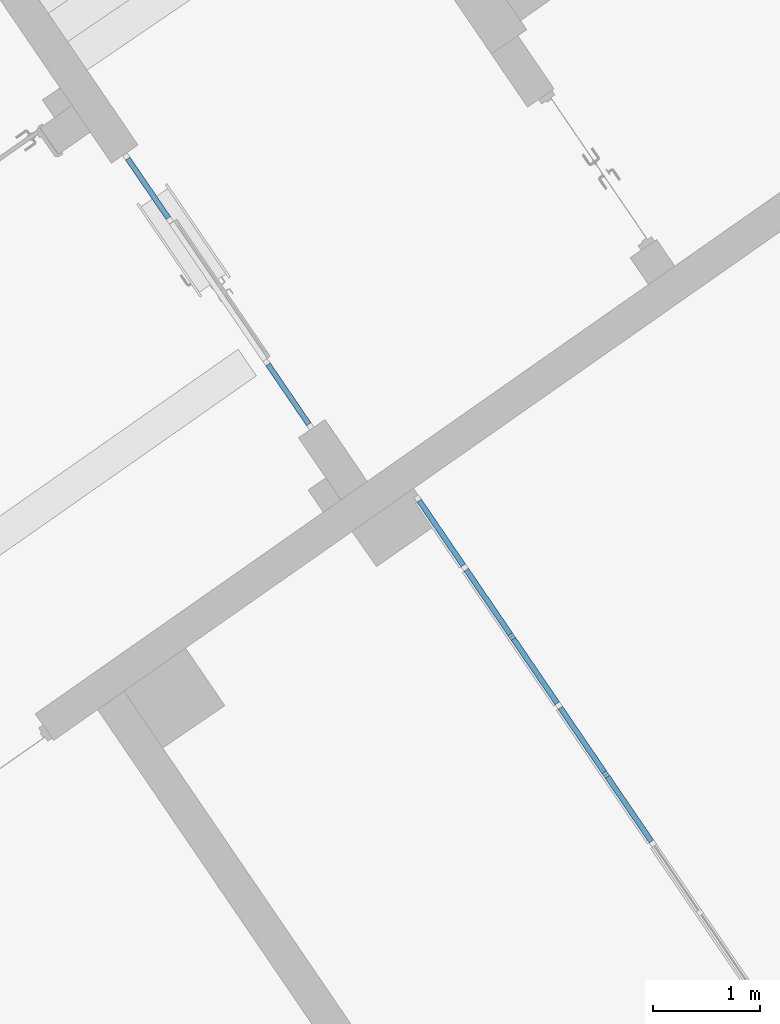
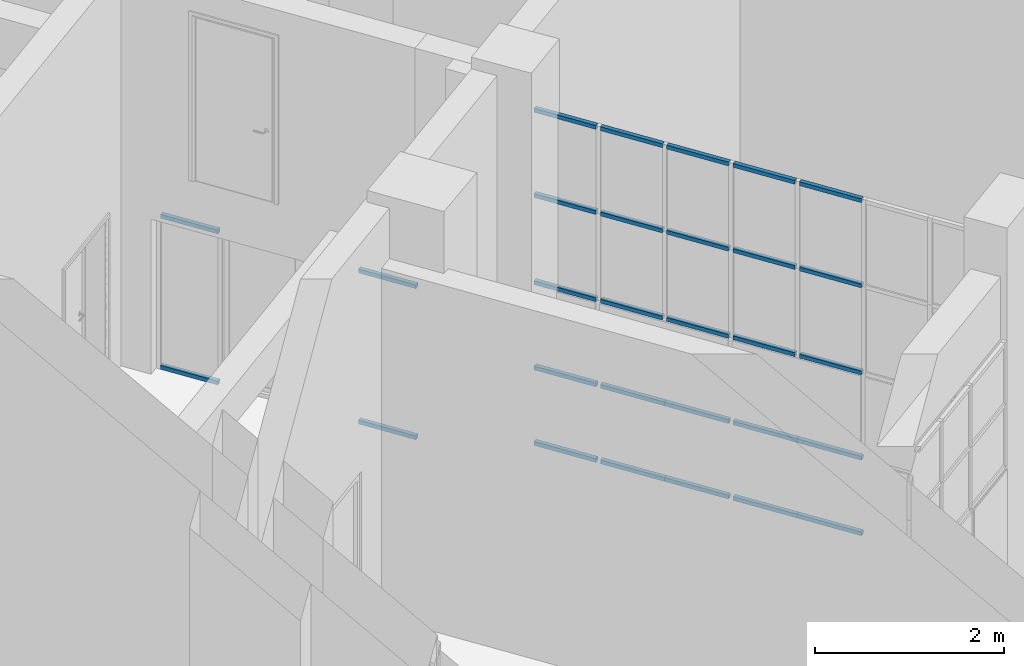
# One storey, part 41 of 157: 29 members, 2 elements without a shape of their own.
"""IFC2X3 building model written with IfcOpenShell, lengths in millimetres."""

from ifc_helpers import new_model, entity, si_unit, converted_unit, derived_unit, direction, frame, origin, origin_2d_with_axis, place, context, subcontext, project, spatial, rectangle, extrude, source, transform, mapped, material, type_object, type_shapes, element, aggregate, save


model = new_model("IFC2X3")

# Units and contexts
model_context = context("Model", 3, precision=0.01, world=origin(), true_north=direction((6.123031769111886e-17, 1.0)))
body_context = subcontext(model_context, "Body", "Model", "MODEL_VIEW")
ifc_project = project(units=[si_unit("LENGTHUNIT", "METRE", prefix="MILLI"), si_unit("AREAUNIT", "SQUARE_METRE"), si_unit("VOLUMEUNIT", "CUBIC_METRE"), converted_unit("PLANEANGLEUNIT", "DEGREE", entity("IfcRatioMeasure", 0.017453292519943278), si_unit("PLANEANGLEUNIT", "RADIAN"), dimensions=[0, 0, 0, 0, 0, 0, 0]), si_unit("MASSUNIT", "GRAM", prefix="KILO"), derived_unit("MASSDENSITYUNIT", [(si_unit("MASSUNIT", "GRAM", prefix="KILO"), 1), (si_unit("LENGTHUNIT", "METRE"), -3)]), derived_unit("MOMENTOFINERTIAUNIT", [(si_unit("LENGTHUNIT", "METRE"), 4)]), si_unit("TIMEUNIT", "SECOND"), si_unit("FREQUENCYUNIT", "HERTZ"), si_unit("THERMODYNAMICTEMPERATUREUNIT", "DEGREE_CELSIUS"), derived_unit("THERMALTRANSMITTANCEUNIT", [(si_unit("MASSUNIT", "GRAM", prefix="KILO"), 1), (si_unit("THERMODYNAMICTEMPERATUREUNIT", "KELVIN"), -1), (si_unit("TIMEUNIT", "SECOND"), -3)]), derived_unit("THERMALCONDUCTANCEUNIT", [(si_unit("MASSUNIT", "GRAM", prefix="KILO"), 1), (si_unit("LENGTHUNIT", "METRE"), 1), (si_unit("THERMODYNAMICTEMPERATUREUNIT", "KELVIN"), -1), (si_unit("TIMEUNIT", "SECOND"), -3)]), derived_unit("VOLUMETRICFLOWRATEUNIT", [(si_unit("LENGTHUNIT", "METRE"), 3), (si_unit("TIMEUNIT", "SECOND"), -1)]), derived_unit("MASSFLOWRATEUNIT", [(si_unit("MASSUNIT", "GRAM", prefix="KILO"), 1), (si_unit("TIMEUNIT", "SECOND"), -1)]), derived_unit("ROTATIONALFREQUENCYUNIT", [(si_unit("TIMEUNIT", "SECOND"), -1)]), si_unit("ELECTRICCURRENTUNIT", "AMPERE"), si_unit("ELECTRICVOLTAGEUNIT", "VOLT"), si_unit("POWERUNIT", "WATT"), converted_unit("FORCEUNIT", "KIP", entity("IfcRatioMeasure", 2.088543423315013e-05), si_unit("FORCEUNIT", "NEWTON"), dimensions=[1, 1, -2, 0, 0, 0, 0]), si_unit("ILLUMINANCEUNIT", "LUX"), si_unit("LUMINOUSFLUXUNIT", "LUMEN"), si_unit("LUMINOUSINTENSITYUNIT", "CANDELA"), derived_unit("USERDEFINED", [(si_unit("MASSUNIT", "GRAM", prefix="KILO"), -1), (si_unit("LENGTHUNIT", "METRE"), -2), (si_unit("TIMEUNIT", "SECOND"), 3), (si_unit("LUMINOUSFLUXUNIT", "LUMEN"), 1)]), derived_unit("USERDEFINED", [(si_unit("MASSUNIT", "GRAM", prefix="KILO"), 1), (si_unit("LENGTHUNIT", "METRE"), 3), (si_unit("TIMEUNIT", "SECOND"), -3), (si_unit("ELECTRICCURRENTUNIT", "AMPERE"), -2)]), derived_unit("USERDEFINED", [(si_unit("LENGTHUNIT", "METRE"), 2), (si_unit("TIMEUNIT", "SECOND"), -2)]), derived_unit("SOUNDPOWERUNIT", [(si_unit("MASSUNIT", "GRAM", prefix="KILO"), 1), (si_unit("LENGTHUNIT", "METRE"), 2), (si_unit("TIMEUNIT", "SECOND"), -3)]), derived_unit("SOUNDPRESSUREUNIT", [(si_unit("MASSUNIT", "GRAM", prefix="KILO"), 1), (si_unit("LENGTHUNIT", "METRE"), -1), (si_unit("TIMEUNIT", "SECOND"), -2)]), derived_unit("LINEARVELOCITYUNIT", [(si_unit("LENGTHUNIT", "METRE"), 1), (si_unit("TIMEUNIT", "SECOND"), -1)]), si_unit("PRESSUREUNIT", "PASCAL"), derived_unit("USERDEFINED", [(si_unit("LENGTHUNIT", "METRE"), -2), (si_unit("MASSUNIT", "GRAM", prefix="KILO"), 1), (si_unit("TIMEUNIT", "SECOND"), -2)]), derived_unit("LINEARFORCEUNIT", [(si_unit("MASSUNIT", "GRAM", prefix="KILO"), 1), (si_unit("LENGTHUNIT", "METRE"), 1), (si_unit("TIMEUNIT", "SECOND"), -2), (si_unit("LENGTHUNIT", "METRE"), -1)]), derived_unit("PLANARFORCEUNIT", [(si_unit("MASSUNIT", "GRAM", prefix="KILO"), 1), (si_unit("LENGTHUNIT", "METRE"), 1), (si_unit("TIMEUNIT", "SECOND"), -2), (si_unit("LENGTHUNIT", "METRE"), -2)]), derived_unit("SPECIFICHEATCAPACITYUNIT", [(si_unit("LENGTHUNIT", "METRE"), 2), (si_unit("TIMEUNIT", "SECOND"), -2), (si_unit("THERMODYNAMICTEMPERATUREUNIT", "KELVIN"), -1)]), derived_unit("VAPORPERMEABILITYUNIT", [(si_unit("TIMEUNIT", "SECOND"), 1), (si_unit("LENGTHUNIT", "METRE"), -1)]), derived_unit("DYNAMICVISCOSITYUNIT", [(si_unit("MASSUNIT", "GRAM", prefix="KILO"), 1), (si_unit("LENGTHUNIT", "METRE"), -1), (si_unit("TIMEUNIT", "SECOND"), -1)]), derived_unit("THERMALEXPANSIONCOEFFICIENTUNIT", [(si_unit("THERMODYNAMICTEMPERATUREUNIT", "KELVIN"), -1)])], contexts=[model_context])

# Site, building, storey
site_placement = place(None, frame((0.0, 0.0, 0.0), z_axis=(0.0, 0.0, 1.0), x_axis=(0.8191520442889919, 0.5735764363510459, 0.0)))
site = spatial("IfcSite", under=ifc_project, at=site_placement, Name="Default", CompositionType="ELEMENT")
building_placement = place(site_placement, origin())
building = spatial("IfcBuilding", under=site, at=building_placement, CompositionType="ELEMENT")
storey_placement = place(building_placement, origin())
storey = spatial("IfcBuildingStorey", under=building, at=storey_placement, Name="1.EG +0.00", CompositionType="ELEMENT", Elevation=-4.331468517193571e-12)

# Curtain wall, members
curtain_wall_type_1 = type_object("IfcCurtainWallType", Name="Curtain Wall:Curtain_Wall_CJC_Int5", PredefinedType="NOTDEFINED")
curtain_wall_1_placement = place(storey_placement, origin())
curtain_wall_1 = element("IfcCurtainWall", 1, at=curtain_wall_1_placement, inside=storey, type_object=curtain_wall_type_1, Name="Curtain Wall:Curtain_Wall_CJC_Int5", ObjectType="Curtain Wall:Curtain_Wall_CJC_Int5")
ifc_material = material(Name="Aluminium")
member_type_1 = type_object("IfcMemberType", Name="Rectangular Mullion:5x5", PredefinedType="MULLION", material=ifc_material)
shared_shape_1 = source(origin(), body_context, "Body", "SweptSolid", [
    extrude(rectangle(XDim=50.0, YDim=50.0, at=origin_2d_with_axis()), frame((-25.0, 0.0, -728.6339668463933), z_axis=(0.0, 0.0, 1.0), x_axis=(0.0, -1.0, 0.0)), (0.0, 0.0, 1.0), 728.6339668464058),
])
type_shapes(member_type_1, [shared_shape_1])
member_1_placement = place(curtain_wall_1_placement, frame((-209886.78590141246, 163696.36289373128, 4350.0), z_axis=(0.012616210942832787, 0.9999204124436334, 0.0), x_axis=(0.0, 0.0, 1.0)))
member_1 = element("IfcMember", 2, at=member_1_placement, type_object=member_type_1, material=ifc_material, Name="Rectangular Mullion:5x5", ObjectType="Rectangular Mullion:5x5", context=body_context, shape_type="MappedRepresentation", body=[
    mapped(shared_shape_1, transform((0.0, 0.0, 0.0), scale=1.0)),
])
member_2_placement = place(curtain_wall_1_placement, frame((-209926.0795428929, 160582.07490555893, 4350.0), z_axis=(0.012616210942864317, 0.999920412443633, 0.0), x_axis=(0.0, 0.0, 1.0)))
member_2 = element("IfcMember", 3, at=member_2_placement, type_object=member_type_1, material=ifc_material, Name="Rectangular Mullion:5x5", ObjectType="Rectangular Mullion:5x5", context=body_context, shape_type="MappedRepresentation", body=[
    mapped(shared_shape_1, transform((0.0, 0.0, 0.0), scale=1.0)),
])
member_3_placement = place(curtain_wall_1_placement, frame((-209916.25613252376, 161360.64690252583, 4350.0), z_axis=(0.012616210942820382, 0.9999204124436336, 0.0), x_axis=(0.0, 0.0, 1.0)))
member_3 = element("IfcMember", 4, at=member_3_placement, type_object=member_type_1, material=ifc_material, Name="Rectangular Mullion:5x5", ObjectType="Rectangular Mullion:5x5", context=body_context, shape_type="MappedRepresentation", body=[
    mapped(shared_shape_1, transform((0.0, 0.0, 0.0), scale=1.0)),
])
member_4_placement = place(curtain_wall_1_placement, frame((-209906.43272215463, 162139.21889949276, 4350.0), z_axis=(0.012616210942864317, 0.999920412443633, 0.0), x_axis=(0.0, 0.0, 1.0)))
member_4 = element("IfcMember", 5, at=member_4_placement, type_object=member_type_1, material=ifc_material, Name="Rectangular Mullion:5x5", ObjectType="Rectangular Mullion:5x5", context=body_context, shape_type="MappedRepresentation", body=[
    mapped(shared_shape_1, transform((0.0, 0.0, 0.0), scale=1.0)),
])
member_5_placement = place(curtain_wall_1_placement, frame((-209896.60931178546, 162917.79089645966, 4350.0), z_axis=(0.012616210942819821, 0.9999204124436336, 0.0), x_axis=(0.0, 0.0, 1.0)))
member_5 = element("IfcMember", 6, at=member_5_placement, type_object=member_type_1, material=ifc_material, Name="Rectangular Mullion:5x5", ObjectType="Rectangular Mullion:5x5", context=body_context, shape_type="MappedRepresentation", body=[
    mapped(shared_shape_1, transform((0.0, 0.0, 0.0), scale=1.0)),
])
member_type_2 = type_object("IfcMemberType", Name="Rectangular Mullion:5x5", PredefinedType="MULLION", material=ifc_material)
shared_shape_2 = source(origin(), body_context, "Body", "SweptSolid", [
    extrude(rectangle(XDim=50.0, YDim=50.0, at=origin_2d_with_axis()), frame((-25.0, 0.0, -753.6339668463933), z_axis=(0.0, 0.0, 1.0), x_axis=(0.0, -1.0, 0.0)), (0.0, 0.0, 1.0), 753.6339668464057),
])
type_shapes(member_type_2, [shared_shape_2])
member_6_placement = place(curtain_wall_1_placement, frame((-209935.2721427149, 159853.49892921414, 0.0), z_axis=(-0.012616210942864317, -0.999920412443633, 0.0), x_axis=(0.0, 0.0, -1.0)))
member_6 = element("IfcMember", 7, at=member_6_placement, type_object=member_type_2, material=ifc_material, Name="Rectangular Mullion:5x5", ObjectType="Rectangular Mullion:5x5", context=body_context, shape_type="MappedRepresentation", body=[
    mapped(shared_shape_2, transform((0.0, 0.0, 0.0), scale=1.0)),
])
member_7_placement = place(curtain_wall_1_placement, frame((-209915.6253219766, 161410.64292314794, 0.0), z_axis=(-0.012616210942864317, -0.999920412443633, 0.0), x_axis=(0.0, 0.0, -1.0)))
member_7 = element("IfcMember", 8, at=member_7_placement, type_object=member_type_2, material=ifc_material, Name="Rectangular Mullion:5x5", ObjectType="Rectangular Mullion:5x5", context=body_context, shape_type="MappedRepresentation", body=[
    mapped(shared_shape_2, transform((0.0, 0.0, 0.0), scale=1.0)),
])
member_type_3 = type_object("IfcMemberType", Name="Rectangular Mullion:5x5", PredefinedType="MULLION", material=ifc_material)
shared_shape_3 = source(origin(), body_context, "Body", "SweptSolid", [
    extrude(rectangle(XDim=50.0, YDim=50.0, at=origin_2d_with_axis()), frame((-25.0, 0.0, -753.6339665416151), z_axis=(0.0, 0.0, 1.0), x_axis=(0.0, -1.0, 0.0)), (0.0, 0.0, 1.0), 753.6339665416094),
])
type_shapes(member_type_3, [shared_shape_3])
member_8_placement = place(curtain_wall_1_placement, frame((-209925.76413761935, 160607.07291586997, 0.0), z_axis=(-0.012616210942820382, -0.9999204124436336, 0.0), x_axis=(0.0, 0.0, -1.0)))
member_8 = element("IfcMember", 9, at=member_8_placement, type_object=member_type_3, material=ifc_material, Name="Rectangular Mullion:5x5", ObjectType="Rectangular Mullion:5x5", context=body_context, shape_type="MappedRepresentation", body=[
    mapped(shared_shape_3, transform((0.0, 0.0, 0.0), scale=1.0)),
])
member_9_placement = place(curtain_wall_1_placement, frame((-209906.11731688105, 162164.2169098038, 0.0), z_axis=(-0.012616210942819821, -0.9999204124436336, 0.0), x_axis=(0.0, 0.0, -1.0)))
member_9 = element("IfcMember", 10, at=member_9_placement, type_object=member_type_3, material=ifc_material, Name="Rectangular Mullion:5x5", ObjectType="Rectangular Mullion:5x5", context=body_context, shape_type="MappedRepresentation", body=[
    mapped(shared_shape_3, transform((0.0, 0.0, 0.0), scale=1.0)),
])
member_type_4 = type_object("IfcMemberType", Name="Rectangular Mullion:5x5", PredefinedType="MULLION", material=ifc_material)
shared_shape_4 = source(origin(), body_context, "Body", "SweptSolid", [
    extrude(rectangle(XDim=50.0, YDim=50.0, at=origin_2d_with_axis()), frame((0.0, 0.0, -753.6339668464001), z_axis=(0.0, 0.0, 1.0), x_axis=(0.0, -1.0, 0.0)), (0.0, 0.0, 1.0), 753.6339668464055),
])
type_shapes(member_type_4, [shared_shape_4])
member_10_placement = place(curtain_wall_1_placement, frame((-209925.76413761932, 160607.07291586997, 1000.0), z_axis=(0.012616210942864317, 0.999920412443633, 0.0), x_axis=(0.0, 0.0, 1.0)))
member_10 = element("IfcMember", 11, at=member_10_placement, type_object=member_type_4, material=ifc_material, Name="Rectangular Mullion:5x5", ObjectType="Rectangular Mullion:5x5", context=body_context, shape_type="MappedRepresentation", body=[
    mapped(shared_shape_4, transform((0.0, 0.0, 0.0), scale=1.0)),
])
member_11_placement = place(curtain_wall_1_placement, frame((-209906.11731688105, 162164.2169098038, 1000.0), z_axis=(0.012616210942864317, 0.999920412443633, 0.0), x_axis=(0.0, 0.0, 1.0)))
member_11 = element("IfcMember", 12, at=member_11_placement, type_object=member_type_4, material=ifc_material, Name="Rectangular Mullion:5x5", ObjectType="Rectangular Mullion:5x5", context=body_context, shape_type="MappedRepresentation", body=[
    mapped(shared_shape_4, transform((0.0, 0.0, 0.0), scale=1.0)),
])
member_type_5 = type_object("IfcMemberType", Name="Rectangular Mullion:5x5", PredefinedType="MULLION", material=ifc_material)
shared_shape_5 = source(origin(), body_context, "Body", "SweptSolid", [
    extrude(rectangle(XDim=50.0, YDim=50.0, at=origin_2d_with_axis()), frame((0.0, 0.0, -753.6339665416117), z_axis=(0.0, 0.0, 1.0), x_axis=(0.0, -1.0, 0.0)), (0.0, 0.0, 1.0), 753.6339665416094),
])
type_shapes(member_type_5, [shared_shape_5])
member_12_placement = place(curtain_wall_1_placement, frame((-209916.25613252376, 161360.64690252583, 1000.0), z_axis=(0.012616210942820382, 0.9999204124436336, 0.0), x_axis=(0.0, 0.0, 1.0)))
member_12 = element("IfcMember", 13, at=member_12_placement, type_object=member_type_5, material=ifc_material, Name="Rectangular Mullion:5x5", ObjectType="Rectangular Mullion:5x5", context=body_context, shape_type="MappedRepresentation", body=[
    mapped(shared_shape_5, transform((0.0, 0.0, 0.0), scale=1.0)),
])
member_13_placement = place(curtain_wall_1_placement, frame((-209896.60931178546, 162917.79089645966, 1000.0), z_axis=(0.012616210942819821, 0.9999204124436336, 0.0), x_axis=(0.0, 0.0, 1.0)))
member_13 = element("IfcMember", 14, at=member_13_placement, type_object=member_type_5, material=ifc_material, Name="Rectangular Mullion:5x5", ObjectType="Rectangular Mullion:5x5", context=body_context, shape_type="MappedRepresentation", body=[
    mapped(shared_shape_5, transform((0.0, 0.0, 0.0), scale=1.0)),
])
member_type_6 = type_object("IfcMemberType", Name="Rectangular Mullion:5x5", PredefinedType="MULLION", material=ifc_material)
shared_shape_6 = source(origin(), body_context, "Body", "SweptSolid", [
    extrude(rectangle(XDim=50.0, YDim=50.0, at=origin_2d_with_axis()), frame((0.0, 0.0, -728.6339668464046), z_axis=(0.0, 0.0, 1.0), x_axis=(0.0, -1.0, 0.0)), (0.0, 0.0, 1.0), 728.6339668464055),
])
type_shapes(member_type_6, [shared_shape_6])
member_14_placement = place(curtain_wall_1_placement, frame((-209926.0795428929, 160582.07490555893, 2100.0), z_axis=(0.012616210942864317, 0.999920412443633, 0.0), x_axis=(0.0, 0.0, 1.0)))
member_14 = element("IfcMember", 15, at=member_14_placement, type_object=member_type_6, material=ifc_material, Name="Rectangular Mullion:5x5", ObjectType="Rectangular Mullion:5x5", context=body_context, shape_type="MappedRepresentation", body=[
    mapped(shared_shape_6, transform((0.0, 0.0, 0.0), scale=1.0)),
])
member_15_placement = place(curtain_wall_1_placement, frame((-209916.25613252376, 161360.64690252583, 2100.0), z_axis=(0.012616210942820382, 0.9999204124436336, 0.0), x_axis=(0.0, 0.0, 1.0)))
member_15 = element("IfcMember", 16, at=member_15_placement, type_object=member_type_6, material=ifc_material, Name="Rectangular Mullion:5x5", ObjectType="Rectangular Mullion:5x5", context=body_context, shape_type="MappedRepresentation", body=[
    mapped(shared_shape_6, transform((0.0, 0.0, 0.0), scale=1.0)),
])
member_16_placement = place(curtain_wall_1_placement, frame((-209906.43272215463, 162139.21889949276, 2100.0), z_axis=(0.012616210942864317, 0.999920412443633, 0.0), x_axis=(0.0, 0.0, 1.0)))
member_16 = element("IfcMember", 17, at=member_16_placement, type_object=member_type_6, material=ifc_material, Name="Rectangular Mullion:5x5", ObjectType="Rectangular Mullion:5x5", context=body_context, shape_type="MappedRepresentation", body=[
    mapped(shared_shape_6, transform((0.0, 0.0, 0.0), scale=1.0)),
])
member_17_placement = place(curtain_wall_1_placement, frame((-209926.0795428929, 160582.07490555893, 3225.0), z_axis=(0.012616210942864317, 0.999920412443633, 0.0), x_axis=(0.0, 0.0, 1.0)))
member_17 = element("IfcMember", 18, at=member_17_placement, type_object=member_type_6, material=ifc_material, Name="Rectangular Mullion:5x5", ObjectType="Rectangular Mullion:5x5", context=body_context, shape_type="MappedRepresentation", body=[
    mapped(shared_shape_6, transform((0.0, 0.0, 0.0), scale=1.0)),
])
member_18_placement = place(curtain_wall_1_placement, frame((-209916.25613252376, 161360.64690252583, 3225.0), z_axis=(0.012616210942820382, 0.9999204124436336, 0.0), x_axis=(0.0, 0.0, 1.0)))
member_18 = element("IfcMember", 19, at=member_18_placement, type_object=member_type_6, material=ifc_material, Name="Rectangular Mullion:5x5", ObjectType="Rectangular Mullion:5x5", context=body_context, shape_type="MappedRepresentation", body=[
    mapped(shared_shape_6, transform((0.0, 0.0, 0.0), scale=1.0)),
])
member_19_placement = place(curtain_wall_1_placement, frame((-209906.43272215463, 162139.21889949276, 3225.0), z_axis=(0.012616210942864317, 0.999920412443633, 0.0), x_axis=(0.0, 0.0, 1.0)))
member_19 = element("IfcMember", 20, at=member_19_placement, type_object=member_type_6, material=ifc_material, Name="Rectangular Mullion:5x5", ObjectType="Rectangular Mullion:5x5", context=body_context, shape_type="MappedRepresentation", body=[
    mapped(shared_shape_6, transform((0.0, 0.0, 0.0), scale=1.0)),
])
member_20_placement = place(curtain_wall_1_placement, frame((-209886.78590141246, 163696.36289373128, 1000.0), z_axis=(0.012616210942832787, 0.9999204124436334, 0.0), x_axis=(0.0, 0.0, 1.0)))
member_20 = element("IfcMember", 21, at=member_20_placement, type_object=member_type_6, material=ifc_material, Name="Rectangular Mullion:5x5", ObjectType="Rectangular Mullion:5x5", context=body_context, shape_type="MappedRepresentation", body=[
    mapped(shared_shape_6, transform((0.0, 0.0, 0.0), scale=1.0)),
])
member_21_placement = place(curtain_wall_1_placement, frame((-209896.60931178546, 162917.79089645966, 2100.0), z_axis=(0.012616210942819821, 0.9999204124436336, 0.0), x_axis=(0.0, 0.0, 1.0)))
member_21 = element("IfcMember", 22, at=member_21_placement, type_object=member_type_6, material=ifc_material, Name="Rectangular Mullion:5x5", ObjectType="Rectangular Mullion:5x5", context=body_context, shape_type="MappedRepresentation", body=[
    mapped(shared_shape_6, transform((0.0, 0.0, 0.0), scale=1.0)),
])
member_22_placement = place(curtain_wall_1_placement, frame((-209886.78590141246, 163696.36289373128, 2100.0), z_axis=(0.012616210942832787, 0.9999204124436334, 0.0), x_axis=(0.0, 0.0, 1.0)))
member_22 = element("IfcMember", 23, at=member_22_placement, type_object=member_type_6, material=ifc_material, Name="Rectangular Mullion:5x5", ObjectType="Rectangular Mullion:5x5", context=body_context, shape_type="MappedRepresentation", body=[
    mapped(shared_shape_6, transform((0.0, 0.0, 0.0), scale=1.0)),
])
member_23_placement = place(curtain_wall_1_placement, frame((-209896.60931178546, 162917.79089645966, 3225.0), z_axis=(0.012616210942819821, 0.9999204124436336, 0.0), x_axis=(0.0, 0.0, 1.0)))
member_23 = element("IfcMember", 24, at=member_23_placement, type_object=member_type_6, material=ifc_material, Name="Rectangular Mullion:5x5", ObjectType="Rectangular Mullion:5x5", context=body_context, shape_type="MappedRepresentation", body=[
    mapped(shared_shape_6, transform((0.0, 0.0, 0.0), scale=1.0)),
])
member_24_placement = place(curtain_wall_1_placement, frame((-209886.78590141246, 163696.36289373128, 3225.0), z_axis=(0.012616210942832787, 0.9999204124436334, 0.0), x_axis=(0.0, 0.0, 1.0)))
member_24 = element("IfcMember", 25, at=member_24_placement, type_object=member_type_6, material=ifc_material, Name="Rectangular Mullion:5x5", ObjectType="Rectangular Mullion:5x5", context=body_context, shape_type="MappedRepresentation", body=[
    mapped(shared_shape_6, transform((0.0, 0.0, 0.0), scale=1.0)),
])
member_type_7 = type_object("IfcMemberType", Name="Rectangular Mullion:5x5", PredefinedType="MULLION", material=ifc_material)
shared_shape_7 = source(origin(), body_context, "Body", "SweptSolid", [
    extrude(rectangle(XDim=50.0, YDim=50.0, at=origin_2d_with_axis()), frame((-25.0, 0.0, -728.6339668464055), z_axis=(0.0, 0.0, 1.0), x_axis=(0.0, -1.0, 0.0)), (0.0, 0.0, 1.0), 728.6339668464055),
])
type_shapes(member_type_7, [shared_shape_7])
member_25_placement = place(curtain_wall_1_placement, frame((-209895.97850123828, 162967.7869170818, 0.0), z_axis=(-0.012616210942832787, -0.9999204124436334, 0.0), x_axis=(0.0, 0.0, -1.0)))
member_25 = element("IfcMember", 26, at=member_25_placement, type_object=member_type_7, material=ifc_material, Name="Rectangular Mullion:5x5", ObjectType="Rectangular Mullion:5x5", context=body_context, shape_type="MappedRepresentation", body=[
    mapped(shared_shape_7, transform((0.0, 0.0, 0.0), scale=1.0)),
])
aggregate(curtain_wall_1, [member_1, member_2, member_3, member_6, member_8, member_7, member_10, member_12, member_11, member_14, member_15, member_16, member_17, member_18, member_19, member_4, member_5, member_9, member_25, member_13, member_20, member_21, member_22, member_23, member_24])

curtain_wall_type_2 = type_object("IfcCurtainWallType", Name="Curtain Wall:Curtain_Wall_CJC_ENTR1", PredefinedType="NOTDEFINED")
curtain_wall_2_placement = place(storey_placement, origin())
curtain_wall_2 = element("IfcCurtainWall", 27, at=curtain_wall_2_placement, inside=storey, type_object=curtain_wall_type_2, Name="Curtain Wall:Curtain_Wall_CJC_ENTR1", ObjectType="Curtain Wall:Curtain_Wall_CJC_ENTR1")
member_type_8 = type_object("IfcMemberType", Name="Rectangular Mullion:5x5", PredefinedType="MULLION", material=ifc_material)
shared_shape_8 = source(origin(), body_context, "Body", "SweptSolid", [
    extrude(rectangle(XDim=50.000000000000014, YDim=50.0, at=origin_2d_with_axis()), frame((-25.0, 0.0, -671.1240925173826), z_axis=(0.0, 0.0, 1.0), x_axis=(0.0, -1.0, 0.0)), (0.0, 0.0, 1.0), 671.1240925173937),
])
type_shapes(member_type_8, [shared_shape_8])
member_26_placement = place(curtain_wall_2_placement, frame((-210283.13404964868, 167867.23619623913, 2000.0), z_axis=(0.012729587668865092, 0.999918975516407, 0.0), x_axis=(0.0, 0.0, 1.0)))
member_26 = element("IfcMember", 28, at=member_26_placement, type_object=member_type_8, material=ifc_material, Name="Rectangular Mullion:5x5", ObjectType="Rectangular Mullion:5x5", context=body_context, shape_type="MappedRepresentation", body=[
    mapped(shared_shape_8, transform((0.0, 0.0, 0.0), scale=1.0)),
])
member_type_9 = type_object("IfcMemberType", Name="Rectangular Mullion:5x5", PredefinedType="MULLION", material=ifc_material)
shared_shape_9 = source(origin(), body_context, "Body", "SweptSolid", [
    extrude(rectangle(XDim=50.0, YDim=50.0, at=origin_2d_with_axis()), frame((-25.0, 0.0, -675.0), z_axis=(0.0, 0.0, 1.0), x_axis=(0.0, -1.0, 0.0)), (0.0, 0.0, 1.0), 674.9999999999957),
])
type_shapes(member_type_9, [shared_shape_9])
member_27_placement = place(curtain_wall_2_placement, frame((-210312.68100227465, 165546.3001716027, 2000.0), z_axis=(0.012729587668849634, 0.9999189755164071, 0.0), x_axis=(0.0, 0.0, 1.0)))
member_27 = element("IfcMember", 29, at=member_27_placement, type_object=member_type_9, material=ifc_material, Name="Rectangular Mullion:5x5", ObjectType="Rectangular Mullion:5x5", context=body_context, shape_type="MappedRepresentation", body=[
    mapped(shared_shape_9, transform((0.0, 0.0, 0.0), scale=1.0)),
])
member_type_10 = type_object("IfcMemberType", Name="Rectangular Mullion:5x5", PredefinedType="MULLION", material=ifc_material)
shared_shape_10 = source(origin(), body_context, "Body", "SweptSolid", [
    extrude(rectangle(XDim=50.000000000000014, YDim=50.0, at=origin_2d_with_axis()), frame((-25.0, 0.0, -675.0), z_axis=(0.0, 0.0, 1.0), x_axis=(0.0, -1.0, 0.0)), (0.0, 0.0, 1.0), 674.9999999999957),
])
type_shapes(member_type_10, [shared_shape_10])
member_28_placement = place(curtain_wall_2_placement, frame((-210321.27347395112, 164871.3548631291, 0.0), z_axis=(-0.012729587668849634, -0.9999189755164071, 0.0), x_axis=(0.0, 0.0, -1.0)))
member_28 = element("IfcMember", 30, at=member_28_placement, type_object=member_type_10, material=ifc_material, Name="Rectangular Mullion:5x5", ObjectType="Rectangular Mullion:5x5", context=body_context, shape_type="MappedRepresentation", body=[
    mapped(shared_shape_10, transform((0.0, 0.0, 0.0), scale=1.0)),
])
member_type_11 = type_object("IfcMemberType", Name="Rectangular Mullion:5x5", PredefinedType="MULLION", material=ifc_material)
shared_shape_11 = source(origin(), body_context, "Body", "SweptSolid", [
    extrude(rectangle(XDim=49.99999999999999, YDim=50.0, at=origin_2d_with_axis()), frame((-25.0, 0.0, -671.1240925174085), z_axis=(0.0, 0.0, 1.0), x_axis=(0.0, -1.0, 0.0)), (0.0, 0.0, 1.0), 671.1240925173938),
])
type_shapes(member_type_11, [shared_shape_11])
member_29_placement = place(curtain_wall_2_placement, frame((-210291.67718262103, 167196.1664812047, 0.0), z_axis=(-0.012729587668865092, -0.999918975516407, 0.0), x_axis=(0.0, 0.0, -1.0)))
member_29 = element("IfcMember", 31, at=member_29_placement, type_object=member_type_11, material=ifc_material, Name="Rectangular Mullion:5x5", ObjectType="Rectangular Mullion:5x5", context=body_context, shape_type="MappedRepresentation", body=[
    mapped(shared_shape_11, transform((0.0, 0.0, 0.0), scale=1.0)),
])
aggregate(curtain_wall_2, [member_26, member_27, member_28, member_29])

save(model, "model.ifc")
